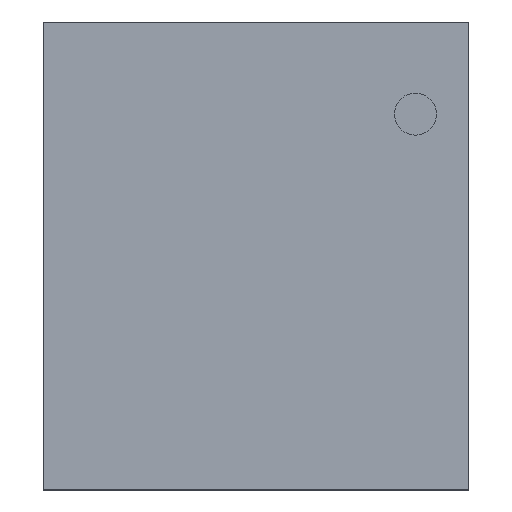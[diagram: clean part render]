
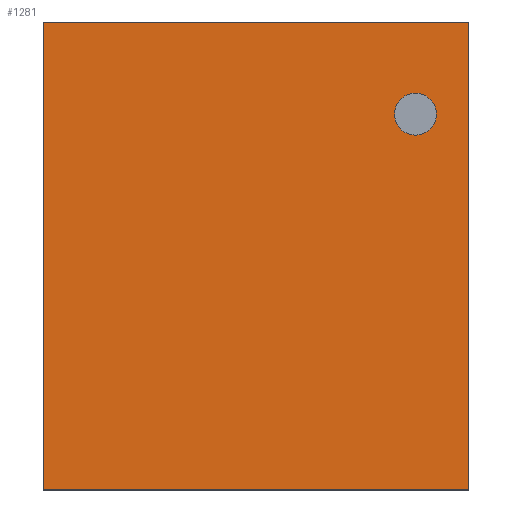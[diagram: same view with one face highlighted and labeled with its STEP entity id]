
A CAD part, top view. The second image highlights one B-rep face of the part: STEP entity #1281.
In plain terms, the highlighted planar face has unit normal (0, 0, 1).
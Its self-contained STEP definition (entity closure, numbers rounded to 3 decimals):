
#21=CIRCLE('',#1337,0.148);
#132=ORIENTED_EDGE('',*,*,#352,.T.);
#133=ORIENTED_EDGE('',*,*,#283,.T.);
#134=ORIENTED_EDGE('',*,*,#353,.T.);
#135=ORIENTED_EDGE('',*,*,#295,.T.);
#136=ORIENTED_EDGE('',*,*,#354,.T.);
#283=EDGE_CURVE('',#409,#408,#500,.T.);
#295=EDGE_CURVE('',#421,#420,#512,.T.);
#352=EDGE_CURVE('',#471,#471,#21,.T.);
#353=EDGE_CURVE('',#408,#421,#569,.T.);
#354=EDGE_CURVE('',#420,#409,#570,.T.);
#408=VERTEX_POINT('',#1627);
#409=VERTEX_POINT('',#1629);
#420=VERTEX_POINT('',#1652);
#421=VERTEX_POINT('',#1654);
#471=VERTEX_POINT('',#1772);
#500=LINE('',#1628,#623);
#512=LINE('',#1653,#635);
#569=LINE('',#1773,#692);
#570=LINE('',#1774,#693);
#623=VECTOR('',#1392,1000.);
#635=VECTOR('',#1406,1000.);
#692=VECTOR('',#1487,1000.);
#693=VECTOR('',#1488,1000.);
#763=EDGE_LOOP('',(#132));
#764=EDGE_LOOP('',(#133,#134,#135,#136));
#828=FACE_BOUND('',#763,.T.);
#829=FACE_BOUND('',#764,.T.);
#880=PLANE('',#1336);
#1281=ADVANCED_FACE('',(#828,#829),#880,.T.);
#1336=AXIS2_PLACEMENT_3D('',#1770,#1483,#1484);
#1337=AXIS2_PLACEMENT_3D('',#1771,#1485,#1486);
#1392=DIRECTION('',(1.,0.,0.));
#1406=DIRECTION('',(-1.,0.,0.));
#1483=DIRECTION('',(0.,0.,1.));
#1484=DIRECTION('',(1.,0.,0.));
#1485=DIRECTION('',(0.,0.,-1.));
#1486=DIRECTION('',(0.,1.,0.));
#1487=DIRECTION('',(0.,1.,0.));
#1488=DIRECTION('',(0.,-1.,0.));
#1627=CARTESIAN_POINT('',(1.5,-1.65,0.85));
#1628=CARTESIAN_POINT('',(-1.5,-1.65,0.85));
#1629=CARTESIAN_POINT('',(-1.5,-1.65,0.85));
#1652=CARTESIAN_POINT('',(-1.5,1.65,0.85));
#1653=CARTESIAN_POINT('',(1.5,1.65,0.85));
#1654=CARTESIAN_POINT('',(1.5,1.65,0.85));
#1770=CARTESIAN_POINT('',(0.,0.,0.85));
#1771=CARTESIAN_POINT('',(1.125,1.,0.85));
#1772=CARTESIAN_POINT('',(1.125,1.148,0.85));
#1773=CARTESIAN_POINT('',(1.5,-1.65,0.85));
#1774=CARTESIAN_POINT('',(-1.5,1.65,0.85));
